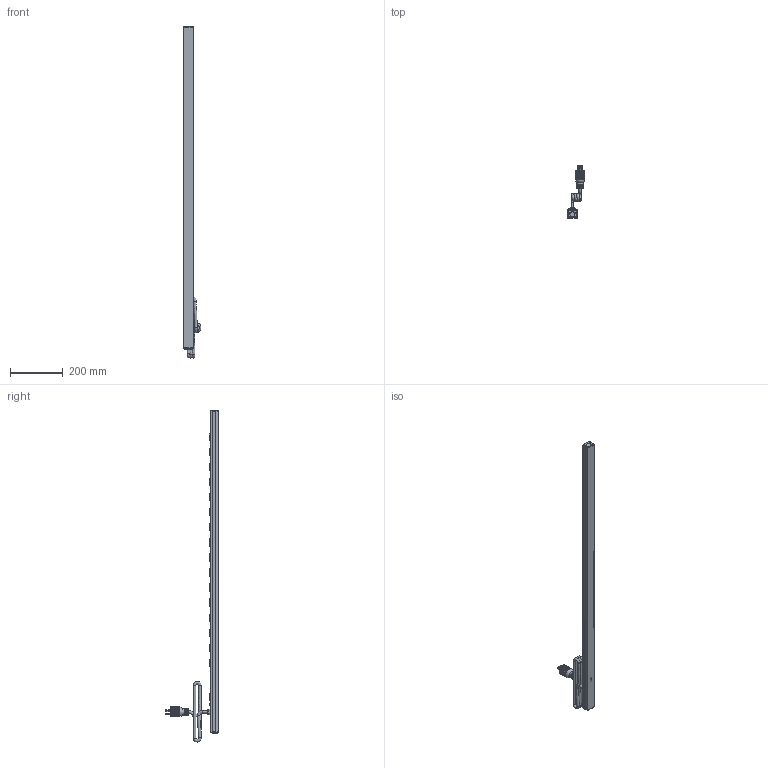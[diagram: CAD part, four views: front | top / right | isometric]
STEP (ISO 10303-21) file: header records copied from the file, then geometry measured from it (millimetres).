
FILE_DESCRIPTION((''),'2;1');
FILE_NAME('E:\Dutton\Manufacturing\drawings\Updated 2009\Vertical Rack Mount Strips\1585 Series\STEP''s\1585H16C1.stp','2010-01-19T07:23:20',('tfoster'),(''),'Autodesk Inventor 2010','Autodesk Inventor 2010','');
FILE_SCHEMA(('AUTOMOTIVE_DESIGN { 1 0 10303 214 1 1 1 1 }'));
Products named in the file (14): 1585H16C1; 1585H16 top; 1585 bottom; End Cap; End Cap w breaker; Reset Switch; #6 - 0.375 Type A screw; Twist Cored 2; toothwasher; round head 1-way 8-32 x 0.5 screw; Power Switch Assembly; Power Switch; Power Switch pt; Receptacle
Assembly tree (31 placements, depth 3):
  1585H16C1
    1585H16 top
    1585 bottom
    End Cap
    End Cap w breaker
    Reset Switch
    #6 - 0.375 Type A screw  x4
    Twist Cored 2
    toothwasher
    round head 1-way 8-32 x 0.5 screw
    Power Switch Assembly
      Power Switch
      Power Switch pt
    Receptacle  x16
Bounding box: 68.19 x 199.14 x 1262.78 mm (x, y, z)
Volume: 649097.9 mm3; surface area: 518442.7 mm2
Topology: 30 solids, 30 shells, 1731 faces, 4723 edges, 3029 vertices
Faces by surface type: plane 1112, cylinder 372, bspline 130, sphere 69, cone 33, torus 15
Full cylindrical faces by diameter (mm): 1 x2, 1.803 x3, 1.905 x2, 3.175 x15, 4.3 x1, 4.826 x1, 7.849 x1, 9.5 x5, 11 x1, 19.05 x2, 21.59 x2, 22.86 x1, 24.765 x3
Entity records: 33591 total; most frequent: CARTESIAN_POINT 10397, ORIENTED_EDGE 4918, DIRECTION 4375, EDGE_CURVE 2459, VERTEX_POINT 1685, VECTOR 1511, LINE 1511, AXIS2_PLACEMENT_3D 1432
